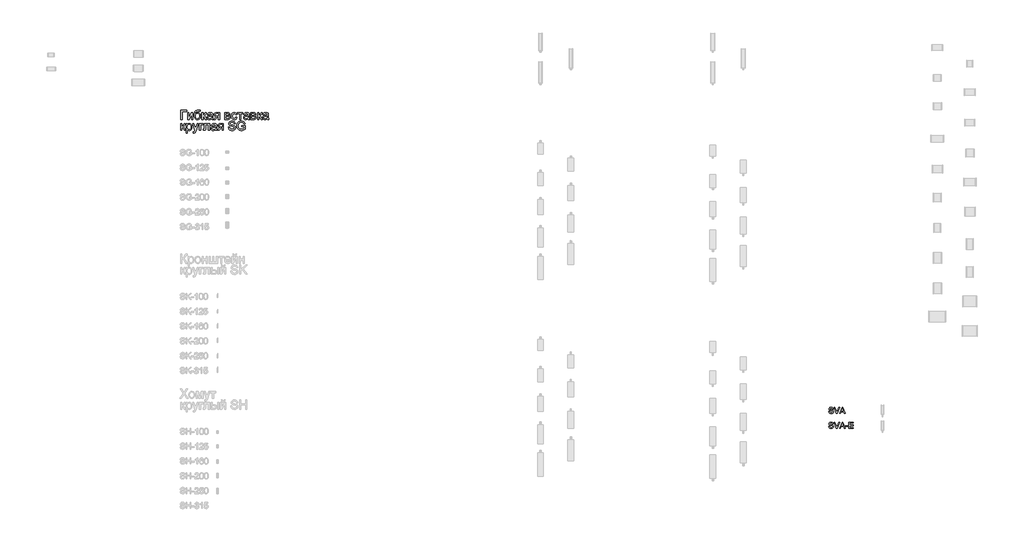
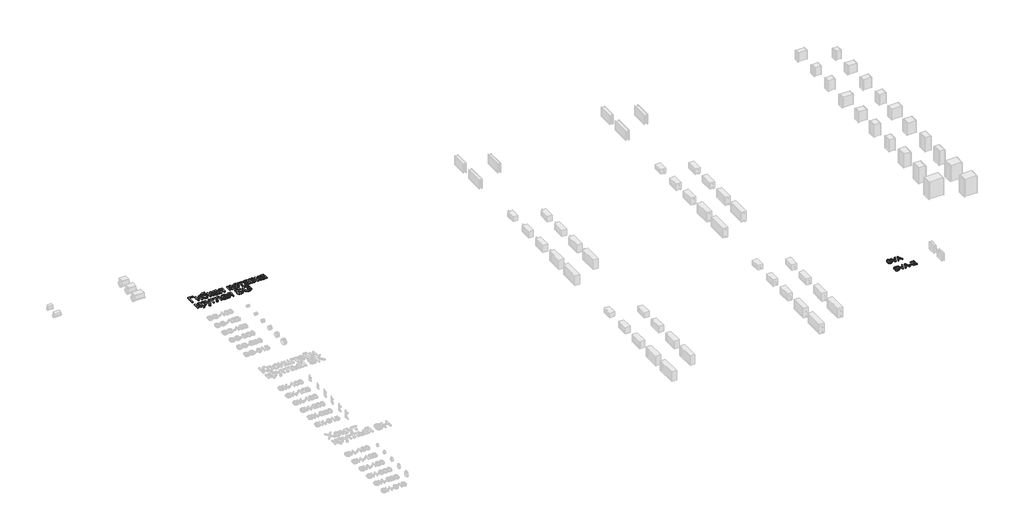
# One storey, part 8 of 31: 2 proxies.
"""IFC4 building model written with IfcOpenShell, lengths in millimetres."""

from ifc_helpers import new_model, si_unit, origin, origin_with_axes, place, context, project, spatial, polyline, outline, extrude, element, save

model = new_model("IFC4")

# Units and contexts
model_context = context("Model", 3, world=origin())
ifc_project = project(units=[si_unit("LENGTHUNIT", "METRE", prefix="MILLI")], contexts=[model_context])

# Site, building, storey
site = spatial("IfcSite", under=ifc_project)
building = spatial("IfcBuilding", under=site)
storey = spatial("IfcBuildingStorey", under=building, Name="Этаж 01", Elevation=0.0)

# Proxies
placement = place(None, origin())
element("IfcBuildingElementProxy", 1, Name="450 мм Arial", ObjectType="450 мм Arial", at=placement, inside=storey, context=model_context, shape_type="SweptSolid", body=[
    extrude(outline(polyline([(10426.1111664, -29173.162397), (10707.1462556, -29173.162397), (10707.1462556, -29229.3694149), (10482.3181842, -29229.3694149), (10482.3181842, -29622.8185399), (10426.1111664, -29622.8185399), (10426.1111664, -29173.162397)])), origin_with_axes(), (0.0, 0.0, 1.0), 50.0),
    extrude(outline(polyline([(10749.301519, -29292.60231), (10805.5085369, -29292.60231), (10805.5085369, -29544.436097), (10943.6109362, -29292.60231), (11016.2848538, -29292.60231), (11016.2848538, -29622.8185399), (10960.077836, -29622.8185399), (10960.077836, -29372.5216635), (10822.8536713, -29622.8185399), (10749.301519, -29622.8185399), (10749.301519, -29292.60231)])), origin_with_axes(), (0.0, 0.0, 1.0), 50.0),
    extrude(outline(polyline([(11332.4493292, -29166.1365198), (11381.6304698, -29166.1365198), (11376.3061723, -29192.8540647), (11367.1395981, -29209.9933628), (11354.4326404, -29220.1342286), (11338.4871925, -29225.8564763), (11269.6555515, -29229.3694149), (11212.5016869, -29232.6079052), (11176.9469058, -29242.323376), (11155.6771603, -29259.1745035), (11141.3784023, -29283.8199634), (11132.966561, -29316.4518698), (11129.3575655, -29357.2623364), (11151.9583854, -29325.8654475), (11178.0446991, -29303.4704638), (11207.6439515, -29290.0499405), (11240.7835872, -29285.5764328), (11271.4051596, -29288.4204036), (11299.2685262, -29296.952316), (11324.3736871, -29311.1721701), (11346.7206424, -29331.0799658), (11365.0675132, -29355.8386357), (11378.1724209, -29384.6111124), (11386.0353655, -29417.3973959), (11388.6563471, -29454.1974863), (11383.4555512, -29507.8521347), (11376.9545564, -29530.7068193), (11367.8531637, -29550.9130776), (11345.1151196, -29584.3820513), (11318.5073541, -29609.2607924), (11302.9461338, -29618.2661282), (11284.8050993, -29624.6985109), (11240.7835872, -29629.8444171), (11213.8293307, -29628.1874353), (11190.0518135, -29623.2164899), (11169.4510358, -29614.931581), (11152.0269975, -29603.3327085), (11124.0469903, -29573.1159474), (11103.4496432, -29535.4890815), (11096.0532607, -29510.9911375), (11090.7701304, -29478.8292239), (11086.5436261, -29391.5134879), (11089.2092055, -29332.3321363), (11097.2059437, -29283.6690169), (11110.5338407, -29245.5241297), (11129.1928965, -29217.8974747), (11153.3820861, -29198.3258782), (11183.3003846, -29184.3461665), (11218.947792, -29175.9583394), (11260.3243083, -29173.162397), (11322.8985274, -29171.8999347), (11332.4493292, -29166.1365198)]), holes=[polyline([(11332.4493292, -29452.441017), (11330.926141, -29429.2261189), (11326.3565763, -29408.2136687), (11318.7406352, -29389.4036664), (11308.0783176, -29372.7961118), (11294.6440719, -29359.2280725), (11278.7123463, -29349.5366159), (11260.283141, -29343.7217419), (11239.3564559, -29341.7834506), (11217.5172301, -29343.8315213), (11198.3264307, -29349.9757332), (11181.7840576, -29360.2160865), (11167.8901109, -29374.5525811), (11156.8915941, -29392.3128186), (11149.0355107, -29412.8244007), (11144.3218607, -29436.0873272), (11142.750644, -29462.1015982), (11144.4865297, -29487.5738338), (11149.6941867, -29509.8693299), (11158.3736151, -29528.9880867), (11170.5248149, -29544.930104), (11185.2215229, -29557.4895457), (11201.5374761, -29566.4605754), (11219.4726744, -29571.8431933), (11239.0271179, -29573.6373992), (11258.8491485, -29571.5618838), (11276.7088735, -29565.3353373), (11292.606293, -29554.9577598), (11306.5414069, -29540.4291514), (11317.8761229, -29522.4768001), (11325.9723487, -29501.8279939), (11330.8300841, -29478.4827329), (11332.4493292, -29452.441017)])]), origin_with_axes(), (0.0, 0.0, 1.0), 50.0),
    extrude(outline(polyline([(11458.9151194, -29292.60231), (11515.1221372, -29292.60231), (11515.1221372, -29433.1198546), (11537.9836831, -29430.59493), (11552.776448, -29423.0201561), (11565.8676333, -29403.2598764), (11583.6244403, -29364.1784343), (11597.9369206, -29332.2189263), (11609.2579142, -29313.4054934), (11619.8241749, -29303.1548482), (11631.8724566, -29296.8837039), (11672.9848163, -29292.60231), (11683.7431908, -29292.60231), (11683.7431908, -29349.1386658), (11668.593643, -29348.8093278), (11651.0289499, -29350.2913488), (11641.1488101, -29354.7374118), (11621.8276477, -29391.7330465), (11609.9577575, -29416.3922289), (11599.1582157, -29431.747613), (11586.0807528, -29441.9982581), (11567.3770992, -29451.3432237), (11585.1887957, -29459.2541968), (11602.8358233, -29473.2167555), (11620.3181819, -29493.2309), (11637.6358715, -29519.29663), (11697.7949453, -29622.8185399), (11633.9033742, -29622.8185399), (11574.951873, -29521.4922167), (11559.0338699, -29494.5276683), (11545.3114535, -29478.6233876), (11531.4518128, -29470.8427775), (11515.1221372, -29468.2492408), (11515.1221372, -29622.8185399), (11458.9151194, -29622.8185399), (11458.9151194, -29292.60231)])), origin_with_axes(), (0.0, 0.0, 1.0), 50.0),
    extrude(outline(polyline([(11943.7006484, -29580.6632765), (11916.8458793, -29603.6894913), (11889.1952102, -29618.7567046), (11860.1174097, -29627.072489), (11828.9812467, -29629.8444171), (11803.9549897, -29628.1771435), (11782.0094151, -29623.1753227), (11763.1445231, -29614.8389547), (11747.3603135, -29603.1680395), (11734.8969288, -29588.9035876), (11725.9945111, -29572.7866094), (11720.6530605, -29554.8171051), (11718.872577, -29534.9950745), (11721.5621706, -29511.6944113), (11729.6309515, -29490.5344451), (11742.0771832, -29472.4208554), (11757.8991294, -29458.2593216), (11776.4930037, -29447.5558367), (11797.2550198, -29439.8163939), (11845.8872638, -29431.3633853), (11903.356744, -29422.4712594), (11943.3713104, -29412.0422229), (11943.7006484, -29399.5273791), (11939.8309269, -29374.4428018), (11928.2217626, -29358.0307917), (11902.2589506, -29345.8452859), (11866.0866608, -29341.7834506), (11832.6039646, -29344.4867667), (11809.220967, -29352.5967148), (11793.2755191, -29367.595316), (11782.105472, -29390.9645912), (11725.8984542, -29383.938714), (11735.6550923, -29353.2005011), (11750.2145762, -29329.0490481), (11770.935425, -29310.5786756), (11799.1761581, -29296.8837039), (11833.7154804, -29288.4032505), (11873.3320967, -29285.5764328), (11911.3294679, -29288.0739126), (11941.4501721, -29295.5663519), (11964.1607713, -29306.8324559), (11979.9278278, -29320.6509292), (11990.3843092, -29337.7353377), (11997.1631829, -29358.799247), (11999.9076662, -29407.9803876), (11999.9076662, -29477.909822), (12002.7619288, -29575.5585376), (12013.9594207, -29622.8185399), (11957.7524028, -29622.8185399), (11948.7504976, -29603.2778188), (11943.7006484, -29580.6632765)]), holes=[polyline([(11943.7006484, -29468.2492408), (11905.9365583, -29477.6079288), (11853.0229204, -29485.4845959), (11804.6651247, -29494.5962804), (11792.0816688, -29500.8262575), (11782.764148, -29509.4164902), (11777.0007331, -29519.7083025), (11775.0795948, -29531.0430185), (11779.2649318, -29547.7569218), (11791.8209429, -29561.4518934), (11812.4731797, -29570.5910228), (11840.9471939, -29573.6373992), (11871.1365101, -29570.2754072), (11897.8128877, -29560.1894311), (11919.4394161, -29545.3280541), (11934.4791845, -29527.6398592), (11941.1482789, -29509.4164902), (11943.3713104, -29484.1672439), (11943.7006484, -29468.2492408)])]), origin_with_axes(), (0.0, 0.0, 1.0), 50.0),
    extrude(outline(polyline([(12330.1238961, -29292.60231), (12330.1238961, -29622.8185399), (12273.9168783, -29622.8185399), (12273.9168783, -29496.3527497), (12243.2884447, -29496.3527497), (12218.8625434, -29498.1366638), (12201.5722986, -29503.4884063), (12184.913285, -29519.0496265), (12162.3810772, -29551.4619742), (12117.5911099, -29622.8185399), (12052.6017455, -29622.8185399), (12109.028322, -29532.5799292), (12133.9482303, -29500.1950263), (12145.6671739, -29490.7540038), (12156.8921106, -29485.8139339), (12136.2535962, -29481.2512304), (12118.4693445, -29474.0401005), (12103.5393554, -29464.1805443), (12091.4636289, -29451.6725617), (12075.4907361, -29421.9223628), (12070.1664385, -29388.0005493), (12071.9846587, -29367.759985), (12077.4393193, -29349.5228935), (12086.5304202, -29333.2892748), (12099.2579614, -29319.0591289), (12115.4298293, -29307.4842706), (12134.8539098, -29299.2165147), (12157.530203, -29294.2558612), (12183.4587089, -29292.60231), (12330.1238961, -29292.60231)]), holes=[polyline([(12273.9168783, -29348.8093278), (12199.8158293, -29348.8093278), (12161.5440098, -29352.0615405), (12148.6140629, -29356.1268064), (12139.8214245, -29361.8181786), (12129.7354484, -29375.9385452), (12126.3734564, -29392.2819432), (12131.3272487, -29413.7026353), (12146.1886258, -29428.5640123), (12173.6471811, -29437.250302), (12216.3925084, -29440.1457318), (12273.9168783, -29440.1457318), (12273.9168783, -29348.8093278)])]), origin_with_axes(), (0.0, 0.0, 1.0), 50.0),
    extrude(outline(polyline([(12590.0813537, -29292.60231), (12713.9124399, -29292.60231), (12753.72117, -29294.482281), (12781.8109566, -29300.1221942), (12802.4769158, -29310.7707894), (12820.014164, -29327.6768065), (12831.9938336, -29349.7012849), (12835.9870568, -29375.7052641), (12833.5719115, -29396.6593941), (12826.3264756, -29414.7318165), (12814.2233043, -29430.0048661), (12797.2349527, -29442.5608771), (12818.038136, -29454.2386536), (12834.9990428, -29473.0246417), (12846.2788691, -29497.4368206), (12850.0388112, -29525.9931693), (12846.9169615, -29548.9988005), (12840.5154542, -29568.8345535), (12830.8342894, -29585.5004283), (12817.873467, -29598.9964249), (12801.6124035, -29609.4186002), (12782.0305152, -29616.8630111), (12759.1278021, -29621.3296577), (12732.9042643, -29622.8185399), (12590.0813537, -29622.8185399), (12590.0813537, -29292.60231)]), holes=[polyline([(12646.2883715, -29419.0681002), (12701.8367134, -29419.0681002), (12747.6695844, -29416.2138375), (12769.9547887, -29404.796787), (12777.3237264, -29395.3557645), (12779.7800389, -29384.1582727), (12775.4712002, -29367.3894797), (12762.5446838, -29356.6036604), (12739.189131, -29350.757911), (12703.5931827, -29348.8093278), (12646.2883715, -29348.8093278), (12646.2883715, -29419.0681002)]), polyline([(12646.2883715, -29566.611522), (12715.2297919, -29566.611522), (12752.8017681, -29564.072875), (12776.3768796, -29556.4569338), (12789.0289476, -29542.6110156), (12793.8317934, -29521.3824373), (12791.4303705, -29507.3169605), (12784.2261019, -29494.3218321), (12773.1658342, -29484.1535215), (12759.1964142, -29478.568498), (12709.7408253, -29475.275118), (12646.2883715, -29475.275118), (12646.2883715, -29566.611522)])]), origin_with_axes(), (0.0, 0.0, 1.0), 50.0),
    extrude(outline(polyline([(13131.0739005, -29503.3786269), (13187.2809183, -29510.4045042), (13181.1675818, -29536.9265046), (13171.6099187, -29560.3952674), (13158.6079291, -29580.8107925), (13142.161613, -29598.1730799), (13122.9639524, -29612.0292899), (13101.7079293, -29621.9265828), (13078.3935437, -29627.8649585), (13053.0207956, -29629.8444171), (13021.4969744, -29627.0827808), (12993.2322271, -29618.7978718), (12968.2265537, -29604.9896903), (12946.4799542, -29585.6582361), (12928.8775244, -29561.1671533), (12916.3043604, -29531.8800859), (12908.7604619, -29497.797034), (12906.2458291, -29458.9179976), (12910.5409454, -29408.8997896), (12923.4262945, -29365.5506759), (12933.1417654, -29346.7955632), (12945.1077125, -29330.5447915), (12959.324136, -29316.7983608), (12975.7910357, -29305.5562711), (13012.4984998, -29290.5713923), (13052.2523403, -29285.5764328), (13077.1894016, -29287.2917348), (13099.7456237, -29292.437641), (13119.9210065, -29301.0141513), (13137.7155501, -29313.0212657), (13152.8273612, -29328.1845359), (13164.9545468, -29346.2295135), (13174.0971067, -29367.1561987), (13180.2550411, -29390.9645912), (13124.0480233, -29397.9904685), (13113.8522678, -29373.4685102), (13097.975432, -29355.8900947), (13077.2957504, -29345.3101116), (13052.6914576, -29341.7834506), (13033.5932845, -29343.5193363), (13016.3682212, -29348.7269933), (13001.0162678, -29357.4064218), (12987.5374242, -29369.5576215), (12976.5629217, -29385.4619022), (12968.7239913, -29405.4005734), (12964.020633, -29429.3736349), (12962.4528469, -29457.3810869), (12963.986327, -29485.8105032), (12968.5867671, -29510.0614438), (12976.2541673, -29530.1339084), (12986.9885276, -29546.0278973), (13000.199784, -29558.1070544), (13015.2978728, -29566.7350238), (13032.2827937, -29571.9118054), (13051.154547, -29573.6373992), (13080.2597923, -29569.3285605), (13104.1230746, -29556.4020442), (13121.4819314, -29534.5285123), (13131.0739005, -29503.3786269)])), origin_with_axes(), (0.0, 0.0, 1.0), 50.0),
    extrude(outline(polyline([(13208.35855, -29292.60231), (13475.3418848, -29292.60231), (13475.3418848, -29348.8093278), (13369.9537264, -29348.8093278), (13369.9537264, -29622.8185399), (13313.7467085, -29622.8185399), (13313.7467085, -29348.8093278), (13208.35855, -29348.8093278), (13208.35855, -29292.60231)])), origin_with_axes(), (0.0, 0.0, 1.0), 50.0),
    extrude(outline(polyline([(13735.2993424, -29580.6632765), (13708.4445734, -29603.6894913), (13680.7939042, -29618.7567046), (13651.7161037, -29627.072489), (13620.5799407, -29629.8444171), (13595.5536837, -29628.1771435), (13573.6081092, -29623.1753227), (13554.7432171, -29614.8389547), (13538.9590076, -29603.1680395), (13526.4956228, -29588.9035876), (13517.5932051, -29572.7866094), (13512.2517545, -29554.8171051), (13510.471271, -29534.9950745), (13513.1608646, -29511.6944113), (13521.2296455, -29490.5344451), (13533.6758772, -29472.4208554), (13549.4978234, -29458.2593216), (13568.0916977, -29447.5558367), (13588.8537139, -29439.8163939), (13637.4859578, -29431.3633853), (13694.955438, -29422.4712594), (13734.9700044, -29412.0422229), (13735.2993424, -29399.5273791), (13731.429621, -29374.4428018), (13719.8204566, -29358.0307917), (13693.8576447, -29345.8452859), (13657.6853549, -29341.7834506), (13624.2026587, -29344.4867667), (13600.819661, -29352.5967148), (13584.8742131, -29367.595316), (13573.7041661, -29390.9645912), (13517.4971482, -29383.938714), (13527.2537863, -29353.2005011), (13541.8132702, -29329.0490481), (13562.5341191, -29310.5786756), (13590.7748522, -29296.8837039), (13625.3141744, -29288.4032505), (13664.9307908, -29285.5764328), (13702.928162, -29288.0739126), (13733.0488661, -29295.5663519), (13755.7594654, -29306.8324559), (13771.5265219, -29320.6509292), (13781.9830032, -29337.7353377), (13788.761877, -29358.799247), (13791.5063603, -29407.9803876), (13791.5063603, -29477.909822), (13794.3606229, -29575.5585376), (13805.5581147, -29622.8185399), (13749.3510969, -29622.8185399), (13740.3491917, -29603.2778188), (13735.2993424, -29580.6632765)]), holes=[polyline([(13735.2993424, -29468.2492408), (13697.5352523, -29477.6079288), (13644.6216144, -29485.4845959), (13596.2638188, -29494.5962804), (13583.6803629, -29500.8262575), (13574.3628421, -29509.4164902), (13568.5994272, -29519.7083025), (13566.6782889, -29531.0430185), (13570.8636259, -29547.7569218), (13583.4196369, -29561.4518934), (13604.0718737, -29570.5910228), (13632.5458879, -29573.6373992), (13662.7352041, -29570.2754072), (13689.4115817, -29560.1894311), (13711.0381101, -29545.3280541), (13726.0778785, -29527.6398592), (13732.7469729, -29509.4164902), (13734.9700044, -29484.1672439), (13735.2993424, -29468.2492408)])]), origin_with_axes(), (0.0, 0.0, 1.0), 50.0),
    extrude(outline(polyline([(13868.7910098, -29292.60231), (13992.622096, -29292.60231), (14032.4308262, -29294.482281), (14060.5206127, -29300.1221942), (14081.1865719, -29310.7707894), (14098.7238201, -29327.6768065), (14110.7034897, -29349.7012849), (14114.6967129, -29375.7052641), (14112.2815676, -29396.6593941), (14105.0361317, -29414.7318165), (14092.9329604, -29430.0048661), (14075.9446088, -29442.5608771), (14096.7477922, -29454.2386536), (14113.7086989, -29473.0246417), (14124.9885253, -29497.4368206), (14128.7484674, -29525.9931693), (14125.6266176, -29548.9988005), (14119.2251103, -29568.8345535), (14109.5439455, -29585.5004283), (14096.5831232, -29598.9964249), (14080.3220597, -29609.4186002), (14060.7401714, -29616.8630111), (14037.8374583, -29621.3296577), (14011.6139204, -29622.8185399), (13868.7910098, -29622.8185399), (13868.7910098, -29292.60231)]), holes=[polyline([(13924.9980277, -29419.0681002), (13980.5463695, -29419.0681002), (14026.3792405, -29416.2138375), (14048.6644449, -29404.796787), (14056.0333825, -29395.3557645), (14058.4896951, -29384.1582727), (14054.1808563, -29367.3894797), (14041.25434, -29356.6036604), (14017.8987871, -29350.757911), (13982.3028388, -29348.8093278), (13924.9980277, -29348.8093278), (13924.9980277, -29419.0681002)]), polyline([(13924.9980277, -29566.611522), (13993.939448, -29566.611522), (14031.5114243, -29564.072875), (14055.0865358, -29556.4569338), (14067.7386038, -29542.6110156), (14072.5414495, -29521.3824373), (14070.1400266, -29507.3169605), (14062.935758, -29494.3218321), (14051.8754903, -29484.1535215), (14037.9060704, -29478.568498), (13988.4504814, -29475.275118), (13924.9980277, -29475.275118), (13924.9980277, -29566.611522)])]), origin_with_axes(), (0.0, 0.0, 1.0), 50.0),
    extrude(outline(polyline([(14199.0072397, -29292.60231), (14255.2142575, -29292.60231), (14255.2142575, -29433.1198546), (14278.0758034, -29430.59493), (14292.8685683, -29423.0201561), (14305.9597536, -29403.2598764), (14323.7165605, -29364.1784343), (14338.0290409, -29332.2189263), (14349.3500345, -29313.4054934), (14359.9162952, -29303.1548482), (14371.9645768, -29296.8837039), (14413.0769366, -29292.60231), (14423.8353111, -29292.60231), (14423.8353111, -29349.1386658), (14408.6857633, -29348.8093278), (14391.1210702, -29350.2913488), (14381.2409304, -29354.7374118), (14361.919768, -29391.7330465), (14350.0498778, -29416.3922289), (14339.250336, -29431.747613), (14326.1728731, -29441.9982581), (14307.4692195, -29451.3432237), (14325.280916, -29459.2541968), (14342.9279436, -29473.2167555), (14360.4103022, -29493.2309), (14377.7279918, -29519.29663), (14437.8870656, -29622.8185399), (14373.9954945, -29622.8185399), (14315.0439933, -29521.4922167), (14299.1259902, -29494.5276683), (14285.4035738, -29478.6233876), (14271.5439331, -29470.8427775), (14255.2142575, -29468.2492408), (14255.2142575, -29622.8185399), (14199.0072397, -29622.8185399), (14199.0072397, -29292.60231)])), origin_with_axes(), (0.0, 0.0, 1.0), 50.0),
    extrude(outline(polyline([(14683.7927687, -29580.6632765), (14656.9379996, -29603.6894913), (14629.2873305, -29618.7567046), (14600.20953, -29627.072489), (14569.073367, -29629.8444171), (14544.04711, -29628.1771435), (14522.1015354, -29623.1753227), (14503.2366434, -29614.8389547), (14487.4524338, -29603.1680395), (14474.9890491, -29588.9035876), (14466.0866314, -29572.7866094), (14460.7451808, -29554.8171051), (14458.9646973, -29534.9950745), (14461.6542909, -29511.6944113), (14469.7230718, -29490.5344451), (14482.1693035, -29472.4208554), (14497.9912497, -29458.2593216), (14516.585124, -29447.5558367), (14537.3471401, -29439.8163939), (14585.9793841, -29431.3633853), (14643.4488642, -29422.4712594), (14683.4634307, -29412.0422229), (14683.7927687, -29399.5273791), (14679.9230472, -29374.4428018), (14668.3138829, -29358.0307917), (14642.3510709, -29345.8452859), (14606.1787811, -29341.7834506), (14572.6960849, -29344.4867667), (14549.3130873, -29352.5967148), (14533.3676393, -29367.595316), (14522.1975923, -29390.9645912), (14465.9905745, -29383.938714), (14475.7472126, -29353.2005011), (14490.3066965, -29329.0490481), (14511.0275453, -29310.5786756), (14539.2682784, -29296.8837039), (14573.8076007, -29288.4032505), (14613.424217, -29285.5764328), (14651.4215882, -29288.0739126), (14681.5422924, -29295.5663519), (14704.2528916, -29306.8324559), (14720.0199481, -29320.6509292), (14730.4764295, -29337.7353377), (14737.2553032, -29358.799247), (14739.9997865, -29407.9803876), (14739.9997865, -29477.909822), (14742.8540491, -29575.5585376), (14754.051541, -29622.8185399), (14697.8445231, -29622.8185399), (14688.8426179, -29603.2778188), (14683.7927687, -29580.6632765)]), holes=[polyline([(14683.7927687, -29468.2492408), (14646.0286785, -29477.6079288), (14593.1150406, -29485.4845959), (14544.757245, -29494.5962804), (14532.1737891, -29500.8262575), (14522.8562683, -29509.4164902), (14517.0928534, -29519.7083025), (14515.1717151, -29531.0430185), (14519.3570521, -29547.7569218), (14531.9130632, -29561.4518934), (14552.5653, -29570.5910228), (14581.0393142, -29573.6373992), (14611.2286304, -29570.2754072), (14637.905008, -29560.1894311), (14659.5315363, -29545.3280541), (14674.5713048, -29527.6398592), (14681.2403992, -29509.4164902), (14683.4634307, -29484.1672439), (14683.7927687, -29468.2492408)])]), origin_with_axes(), (0.0, 0.0, 1.0), 50.0),
    extrude(outline(polyline([(10412.0594119, -29833.0343932), (10468.2664298, -29833.0343932), (10468.2664298, -29973.5519378), (10491.1279756, -29971.0270132), (10505.9207405, -29963.4522393), (10519.0119258, -29943.6919596), (10536.7687328, -29904.6105175), (10551.0812131, -29872.6510095), (10562.4022067, -29853.8375765), (10572.9684674, -29843.5869314), (10585.0167491, -29837.3157871), (10626.1291088, -29833.0343932), (10636.8874833, -29833.0343932), (10636.8874833, -29889.570749), (10621.7379355, -29889.241411), (10604.1732424, -29890.723432), (10594.2931026, -29895.1694949), (10574.9719402, -29932.1651297), (10563.10205, -29956.8243121), (10552.3025082, -29972.1796961), (10539.2250453, -29982.4303412), (10520.5213917, -29991.7753069), (10538.3330882, -29999.68628), (10555.9801158, -30013.6488387), (10573.4624744, -30033.6629831), (10590.780164, -30059.7287132), (10650.9392378, -30163.250623), (10587.0476667, -30163.250623), (10528.0961656, -30061.9242998), (10512.1781624, -30034.9597515), (10498.455746, -30019.0554708), (10484.5961053, -30011.2748607), (10468.2664298, -30008.681324), (10468.2664298, -30163.250623), (10412.0594119, -30163.250623), (10412.0594119, -29833.0343932)])), origin_with_axes(), (0.0, 0.0, 1.0), 50.0),
    extrude(outline(polyline([(10686.0686239, -30289.7164132), (10686.0686239, -29833.0343932), (10742.2756418, -29833.0343932), (10742.2756418, -29888.1436177), (10760.6087902, -29860.9595107), (10781.1375252, -29841.5422914), (10805.0694195, -29829.8919598), (10833.6120458, -29826.0085159), (10871.6231394, -29831.4425929), (10904.8588321, -29847.7448236), (10931.9194374, -29873.9271942), (10951.4052687, -29909.0016907), (10963.1791021, -29950.4159436), (10967.1037132, -29995.6175835), (10962.6713727, -30043.6872084), (10949.3743511, -30086.6795392), (10927.6380434, -30122.4127116), (10897.8878445, -30148.7048616), (10863.2387429, -30164.8835906), (10826.8057272, -30170.2765003), (10800.966417, -30166.6675047), (10777.8990349, -30155.8405182), (10758.1524776, -30139.4971201), (10742.2756418, -30119.3388903), (10742.2756418, -30289.7164132), (10686.0686239, -30289.7164132)]), holes=[polyline([(10742.2756418, -30000.7772121), (10743.7953994, -30027.8652622), (10748.3546723, -30051.1659253), (10755.9534604, -30070.6792016), (10766.5917638, -30086.4050908), (10779.3982089, -30098.5082622), (10793.5014225, -30107.1533845), (10808.9014043, -30112.3404579), (10825.5981546, -30114.0694824), (10842.5350471, -30112.2787071), (10858.2163385, -30106.906381), (10872.6420288, -30097.9525043), (10885.812118, -30085.4170768), (10896.7866206, -30069.1217073), (10904.625551, -30048.8880042), (10909.3289093, -30024.7159676), (10910.8966953, -29996.6055975), (10909.3666459, -29969.7508284), (10904.7764976, -29946.4913325), (10897.1262504, -29926.8271097), (10886.4159044, -29910.75816), (10873.5785838, -29898.2707611), (10859.5474129, -29889.3511903), (10844.3223918, -29883.9994479), (10827.9035205, -29882.2155338), (10811.5361083, -29884.1126579), (10796.1361264, -29889.8040301), (10781.7035749, -29899.2896505), (10768.2384537, -29912.569519), (10756.8797235, -29929.4652443), (10748.7663448, -29949.7984349), (10743.8983175, -29973.5690908), (10742.2756418, -30000.7772121)])]), origin_with_axes(), (0.0, 0.0, 1.0), 50.0),
    extrude(outline(polyline([(11030.3366083, -30289.7164132), (11023.310731, -30235.5952027), (11051.8533573, -30240.5352726), (11066.8656809, -30238.9846395), (11078.5297349, -30234.3327403), (11094.8868553, -30217.0424956), (11110.2559618, -30175.6556875), (11114.6471351, -30162.0430504), (10995.2072221, -29833.0343932), (11054.4880613, -29833.0343932), (11117.8307357, -30016.3658772), (11139.8963814, -30089.6984708), (11161.962027, -30024.928665), (11227.0611708, -29833.0343932), (11285.9028926, -29833.0343932), (11170.9639322, -30171.1547349), (11141.103954, -30244.4873285), (11125.8171821, -30267.897771), (11108.4994925, -30284.1176673), (11088.3824299, -30293.5861347), (11064.6975391, -30296.7422904), (11030.3366083, -30289.7164132)])), origin_with_axes(), (0.0, 0.0, 1.0), 50.0),
    extrude(outline(polyline([(11332.4493292, -29833.0343932), (11515.1221372, -29833.0343932), (11515.1221372, -29889.241411), (11388.6563471, -29889.241411), (11388.6563471, -30163.250623), (11332.4493292, -30163.250623), (11332.4493292, -29833.0343932)])), origin_with_axes(), (0.0, 0.0, 1.0), 50.0),
    extrude(outline(polyline([(11585.3809096, -29833.0343932), (11838.3124899, -29833.0343932), (11838.3124899, -30162.9212851), (11782.105472, -30162.9212851), (11782.105472, -29889.241411), (11641.5879274, -29889.241411), (11641.5879274, -30046.7747521), (11637.8005405, -30119.4486697), (11630.7060512, -30135.901847), (11616.9973571, -30150.1319929), (11596.1941737, -30159.9709655), (11567.8162165, -30163.250623), (11522.1480145, -30160.3963604), (11522.1480145, -30107.0436052), (11547.2874814, -30107.0436052), (11572.7013967, -30103.5855562), (11579.0548756, -30099.1120485), (11582.8559849, -30092.6076231), (11585.3809096, -30043.5911514), (11585.3809096, -29833.0343932)])), origin_with_axes(), (0.0, 0.0, 1.0), 50.0),
    extrude(outline(polyline([(12133.3993336, -30121.0953597), (12106.5445646, -30144.1215745), (12078.8938954, -30159.1887878), (12049.8160949, -30167.5045722), (12018.679932, -30170.2765003), (11993.6536749, -30168.6092267), (11971.7081004, -30163.6074059), (11952.8432083, -30155.2710379), (11937.0589988, -30143.6001227), (11924.595614, -30129.3356707), (11915.6931964, -30113.2186926), (11910.3517457, -30095.2491882), (11908.5712622, -30075.4271577), (11911.2608558, -30052.1264945), (11919.3296367, -30030.9665283), (11931.7758685, -30012.8529386), (11947.5978146, -29998.6914048), (11966.191689, -29987.9879199), (11986.9537051, -29980.248477), (12035.585949, -29971.7954685), (12093.0554292, -29962.9033426), (12133.0699956, -29952.4743061), (12133.3993336, -29939.9594623), (12129.5296122, -29914.874885), (12117.9204478, -29898.4628749), (12091.9576359, -29886.2773691), (12055.7853461, -29882.2155338), (12022.3026499, -29884.9188498), (11998.9196522, -29893.028798), (11982.9742043, -29908.0273992), (11971.8041573, -29931.3966744), (11915.5971394, -29924.3707972), (11925.3537776, -29893.6325843), (11939.9132614, -29869.4811313), (11960.6341103, -29851.0107587), (11988.8748434, -29837.3157871), (12023.4141656, -29828.8353337), (12063.030782, -29826.0085159), (12101.0281532, -29828.5059957), (12131.1488573, -29835.9984351), (12153.8594566, -29847.264539), (12169.6265131, -29861.0830124), (12180.0829944, -29878.1674209), (12186.8618682, -29899.2313302), (12189.6063515, -29948.4124708), (12189.6063515, -30018.3419051), (12192.4606141, -30115.9906207), (12203.6581059, -30163.250623), (12147.4510881, -30163.250623), (12138.4491829, -30143.709902), (12133.3993336, -30121.0953597)]), holes=[polyline([(12133.3993336, -30008.681324), (12095.6352435, -30018.040012), (12042.7216056, -30025.916679), (11994.36381, -30035.0283636), (11981.7803541, -30041.2583406), (11972.4628333, -30049.8485734), (11966.6994184, -30060.1403857), (11964.7782801, -30071.4751017), (11968.9636171, -30088.189005), (11981.5196282, -30101.8839766), (12002.1718649, -30111.023106), (12030.6458791, -30114.0694824), (12060.8351953, -30110.7074904), (12087.511573, -30100.6215143), (12109.1381013, -30085.7601373), (12124.1778698, -30068.0719424), (12130.8469642, -30049.8485734), (12133.0699956, -30024.5993271), (12133.3993336, -30008.681324)])]), origin_with_axes(), (0.0, 0.0, 1.0), 50.0),
    extrude(outline(polyline([(12519.8225814, -29833.0343932), (12519.8225814, -30163.250623), (12463.6155635, -30163.250623), (12463.6155635, -30036.7848329), (12432.9871299, -30036.7848329), (12408.5612286, -30038.568747), (12391.2709839, -30043.9204894), (12374.6119703, -30059.4817097), (12352.0797625, -30091.8940574), (12307.2897951, -30163.250623), (12242.3004307, -30163.250623), (12298.7270072, -30073.0120124), (12323.6469155, -30040.6271095), (12335.3658592, -30031.186087), (12346.5907959, -30026.246017), (12325.9522815, -30021.6833136), (12308.1680298, -30014.4721837), (12293.2380406, -30004.6126275), (12281.1623141, -29992.1046449), (12265.1894214, -29962.354446), (12259.8651238, -29928.4326324), (12261.683344, -29908.1920682), (12267.1380045, -29889.9549767), (12276.2291054, -29873.721358), (12288.9566467, -29859.4912121), (12305.1285145, -29847.9163538), (12324.552595, -29839.6485979), (12347.2288882, -29834.6879443), (12373.1573941, -29833.0343932), (12519.8225814, -29833.0343932)]), holes=[polyline([(12463.6155635, -29889.241411), (12389.5145146, -29889.241411), (12351.242695, -29892.4936237), (12338.3127481, -29896.5588896), (12329.5201098, -29902.2502618), (12319.4341337, -29916.3706284), (12316.0721416, -29932.7140264), (12321.025934, -29954.1347185), (12335.887311, -29968.9960955), (12363.3458664, -29977.6823852), (12406.0911937, -29980.577815), (12463.6155635, -29980.577815), (12463.6155635, -29889.241411)])]), origin_with_axes(), (0.0, 0.0, 1.0), 50.0),
    extrude(outline(polyline([(12765.7282845, -30008.681324), (12821.9353023, -30008.681324), (12828.3848381, -30039.8723766), (12840.048892, -30064.9432315), (12858.2448163, -30084.8407353), (12884.2899627, -30100.511735), (12916.1259689, -30110.6800456), (12951.6944724, -30114.0694824), (12983.0090268, -30111.5033905), (13010.4264149, -30103.8051149), (13032.6430072, -30091.6196091), (13048.355174, -30075.5918266), (13057.7001396, -30057.1900662), (13060.8151282, -30037.8826262), (13058.4823174, -30019.0691932), (13051.483885, -30002.8081297), (13037.2674615, -29988.9347667), (13013.2806775, -29977.2844351), (12931.4401857, -29955.8225757), (12877.7169253, -29941.6198747), (12843.342272, -29928.1032945), (12815.3622648, -29909.1938046), (12795.533373, -29886.2773691), (12783.7183724, -29859.8479949), (12779.7800389, -29830.3996892), (12784.6514968, -29797.4796121), (12799.2658703, -29766.7825665), (12823.2389319, -29740.7648648), (12856.1864538, -29721.8828198), (12895.7344581, -29710.3971572), (12939.5089666, -29706.568603), (12986.9336379, -29710.5755486), (13028.4302253, -29722.5963854), (13062.5167078, -29742.38411), (13087.7110645, -29769.6917187), (13103.6565124, -29802.8176321), (13109.9962688, -29840.0602704), (13053.789251, -29840.0602704), (13050.0293088, -29822.1250721), (13043.4699938, -29806.5226845), (13034.1113057, -29793.2531078), (13021.9532447, -29782.3163419), (13006.7693909, -29773.7672764), (12988.3333244, -29767.6608011), (12941.7045532, -29762.7756208), (12893.9779888, -29767.6059114), (12875.7340361, -29773.6437747), (12861.2363031, -29782.0967832), (12842.2993683, -29803.4214184), (12837.5651347, -29815.5863406), (12835.9870568, -29828.7529992), (12840.4605645, -29850.3520827), (12853.8810878, -29867.724662), (12885.6073147, -29883.2584374), (12945.6566092, -29899.1215509), (13007.627042, -29914.1887642), (13045.1166837, -29927.3348391), (13077.1585262, -29947.72635), (13099.5123426, -29972.8932618), (13112.6446952, -30002.5611262), (13117.022146, -30036.4554949), (13111.9860192, -30071.1045965), (13096.8776387, -30103.6953356), (13072.3145132, -30131.7439548), (13038.9141515, -30152.7666969), (12998.7486385, -30165.8990494), (12953.8900591, -30170.2765003), (12898.8220018, -30165.555989), (12853.4968602, -30151.3944552), (12834.3575198, -30140.7595825), (12817.3931825, -30127.7370092), (12802.6038481, -30112.3267355), (12789.9895168, -30094.5287614), (12772.3973789, -30054.0750776), (12765.7282845, -30008.681324)])), origin_with_axes(), (0.0, 0.0, 1.0), 50.0),
    extrude(outline(polyline([(13412.1089898, -29987.6036923), (13412.1089898, -29931.3966744), (13594.7817978, -29931.3966744), (13594.7817978, -30099.4688313), (13550.3897805, -30130.3442684), (13504.5980768, -30152.4922485), (13457.5164659, -30165.8304373), (13409.2547271, -30170.2765003), (13376.9693118, -30168.5097392), (13346.2002235, -30163.2094558), (13316.9474622, -30154.3756502), (13289.2110279, -30142.0083224), (13263.8863083, -30126.2927249), (13241.8686911, -30107.4141104), (13223.1581762, -30085.372479), (13207.7547637, -30060.1678305), (13195.7236351, -30032.6063571), (13187.1299718, -30003.4942505), (13181.9737738, -29972.8315109), (13180.2550411, -29940.6181383), (13181.9669126, -29908.401335), (13187.1025269, -29877.2891863), (13195.6618842, -29847.2816921), (13207.6449844, -29818.3788524), (13222.83913, -29791.8499907), (13241.0316237, -29768.9644307), (13262.2224653, -29749.7221722), (13286.4116549, -29734.1232153), (13313.0743101, -29722.0680724), (13341.6855484, -29713.4572561), (13372.2453699, -29708.2907663), (13404.7537745, -29706.568603), (13451.0532077, -29710.5618262), (13492.6870193, -29722.5414958), (13527.7477933, -29741.6430995), (13554.328114, -29767.0021251), (13573.9923368, -29799.8398677), (13588.3048172, -29841.3776224), (13536.4889726, -29855.9782735), (13524.9209755, -29826.3515763), (13510.8554987, -29803.9977599), (13492.2479019, -29787.1466325), (13467.0535453, -29774.0280024), (13437.0151756, -29765.5887162), (13403.8755399, -29762.7756208), (13365.0822685, -29765.8082749), (13331.9151879, -29774.906237), (13304.4977998, -29788.9305466), (13282.953606, -29806.7422432), (13266.4180941, -29827.4219248), (13254.026752, -29850.0501896), (13240.8532322, -29892.4799013), (13236.462059, -29938.3127723), (13241.7451893, -29992.0634776), (13248.3491022, -30015.3675714), (13257.5945803, -30036.2908259), (13269.3615525, -30054.7543372), (13283.5299475, -30070.6792016), (13300.0997653, -30084.0654188), (13319.0710061, -30094.912989), (13360.6636504, -30109.2803591), (13404.7537745, -30114.0694824), (13443.6842701, -30110.4604869), (13481.6541964, -30099.6335003), (13514.6291632, -30084.7172336), (13538.5747799, -30068.8403977), (13538.5747799, -29987.6036923), (13412.1089898, -29987.6036923)])), origin_with_axes(), (0.0, 0.0, 1.0), 50.0),
])
element("IfcBuildingElementProxy", 2, Name="300 мм Arial", ObjectType="300 мм Arial", at=placement, inside=storey, context=model_context, shape_type="SweptSolid", body=[
    extrude(outline(polyline([(42364.5550299, -44035.264306), (42402.2261462, -44035.264306), (42406.5487596, -44056.1692004), (42414.366252, -44072.9722105), (42426.5615402, -44086.3079328), (42444.0175408, -44096.8109638), (42465.3546966, -44103.6259778), (42489.1934499, -44105.8976491), (42510.1811177, -44104.1778008), (42528.5568233, -44099.0182558), (42543.4468471, -44090.8512755), (42553.9774692, -44080.1091212), (42560.2406602, -44067.7758773), (42562.3283905, -44054.8356282), (42560.764892, -44042.2264728), (42556.0743966, -44031.3279687), (42546.5462529, -44022.0297512), (42530.4698097, -44014.2214559), (42475.6186042, -43999.8372699), (42439.612154, -43990.3183232), (42416.573544, -43981.2592291), (42397.8207593, -43968.5856944), (42384.5310222, -43953.2266211), (42376.6123623, -43935.513103), (42373.972809, -43915.776234), (42377.2377617, -43893.7125113), (42387.0326198, -43873.1387107), (42403.0998659, -43855.7011042), (42425.1819827, -43843.0459635), (42451.6878804, -43835.3480328), (42481.0264696, -43832.7820559), (42512.8114739, -43835.4675944), (42540.6233528, -43843.5242101), (42563.4688247, -43856.7863561), (42580.3546083, -43875.0884853), (42591.0415802, -43897.2901637), (42595.2906173, -43922.2509571), (42557.619501, -43922.2509571), (42550.7033194, -43899.7733672), (42536.2823452, -43883.5497712), (42513.749573, -43873.7273219), (42482.4979975, -43870.4531722), (42450.5106581, -43873.6905337), (42428.566497, -43883.4026184), (42415.8745682, -43897.6948339), (42411.6439253, -43914.672588), (42414.6421635, -43929.1487445), (42423.6368783, -43940.7922096), (42444.9004576, -43951.2032701), (42485.1467479, -43961.8350598), (42526.6806252, -43971.9334205), (42551.8069654, -43980.7441943), (42573.2820769, -43994.4110104), (42588.2640712, -44011.2783999), (42597.0656479, -44031.1624218), (42599.9995068, -44053.879135), (42596.6241895, -44077.1016859), (42586.4982376, -44098.9446794), (42570.0355183, -44117.7434493), (42547.6498989, -44131.8333297), (42520.7301339, -44140.6349065), (42490.6649778, -44143.5687654), (42453.7572167, -44140.4049802), (42423.3793609, -44130.9136248), (42399.1819227, -44115.0579108), (42380.8154141, -44092.8010501), (42369.0247961, -44065.688147), (42364.5550299, -44035.264306)])), origin_with_axes(), (0.0, 0.0, 1.0), 50.0),
    extrude(outline(polyline([(42745.5336241, -44138.8598759), (42625.6040937, -43837.4909454), (42665.9239603, -43837.4909454), (42746.1958117, -44054.614899), (42762.4561959, -44103.5432043), (42778.4958509, -44054.614899), (42858.9884314, -43837.4909454), (42899.3082981, -43837.4909454), (42784.4555392, -44138.8598759), (42745.5336241, -44138.8598759)])), origin_with_axes(), (0.0, 0.0, 1.0), 50.0),
    extrude(outline(polyline([(42899.2347217, -44138.8598759), (43019.5321341, -43837.4909454), (43051.6114441, -43837.4909454), (43171.9088565, -44138.8598759), (43132.1040246, -44138.8598759), (43097.5966935, -44044.6820851), (42973.4733083, -44044.6820851), (42939.0395536, -44138.8598759), (42899.2347217, -44138.8598759)]), holes=[polyline([(42987.3056713, -44007.0109688), (43083.8379069, -44007.0109688), (43056.6882156, -43932.919535), (43035.5717891, -43875.1620617), (43016.8098073, -43926.4448118), (42987.3056713, -44007.0109688)])]), origin_with_axes(), (0.0, 0.0, 1.0), 50.0),
    extrude(outline(polyline([(42364.5550299, -44767.1132131), (42402.2261462, -44767.1132131), (42406.5487596, -44788.0181075), (42414.366252, -44804.8211176), (42426.5615402, -44818.1568399), (42444.0175408, -44828.6598709), (42465.3546966, -44835.4748848), (42489.1934499, -44837.7465562), (42510.1811177, -44836.0267078), (42528.5568233, -44830.8671628), (42543.4468471, -44822.7001826), (42553.9774692, -44811.9580283), (42560.2406602, -44799.6247844), (42562.3283905, -44786.6845352), (42560.764892, -44774.0753798), (42556.0743966, -44763.1768757), (42546.5462529, -44753.8786583), (42530.4698097, -44746.070363), (42475.6186042, -44731.6861769), (42439.612154, -44722.1672303), (42416.573544, -44713.1081362), (42397.8207593, -44700.4346015), (42384.5310222, -44685.0755282), (42376.6123623, -44667.3620101), (42373.972809, -44647.625141), (42377.2377617, -44625.5614184), (42387.0326198, -44604.9876178), (42403.0998659, -44587.5500112), (42425.1819827, -44574.8948706), (42451.6878804, -44567.1969399), (42481.0264696, -44564.6309629), (42512.8114739, -44567.3165015), (42540.6233528, -44575.3731172), (42563.4688247, -44588.6352631), (42580.3546083, -44606.9373924), (42591.0415802, -44629.1390708), (42595.2906173, -44654.0998642), (42557.619501, -44654.0998642), (42550.7033194, -44631.6222743), (42536.2823452, -44615.3986783), (42513.749573, -44605.576229), (42482.4979975, -44602.3020792), (42450.5106581, -44605.5394408), (42428.566497, -44615.2515255), (42415.8745682, -44629.543741), (42411.6439253, -44646.5214951), (42414.6421635, -44660.9976516), (42423.6368783, -44672.6411167), (42444.9004576, -44683.0521772), (42485.1467479, -44693.6839668), (42526.6806252, -44703.7823276), (42551.8069654, -44712.5931014), (42573.2820769, -44726.2599175), (42588.2640712, -44743.127307), (42597.0656479, -44763.0113288), (42599.9995068, -44785.728042), (42596.6241895, -44808.950593), (42586.4982376, -44830.7935864), (42570.0355183, -44849.5923564), (42547.6498989, -44863.6822368), (42520.7301339, -44872.4838136), (42490.6649778, -44875.4176725), (42453.7572167, -44872.2538873), (42423.3793609, -44862.7625318), (42399.1819227, -44846.9068178), (42380.8154141, -44824.6499571), (42369.0247961, -44797.5370541), (42364.5550299, -44767.1132131)])), origin_with_axes(), (0.0, 0.0, 1.0), 50.0),
    extrude(outline(polyline([(42745.5336241, -44870.7087829), (42625.6040937, -44569.3398525), (42665.9239603, -44569.3398525), (42746.1958117, -44786.463806), (42762.4561959, -44835.3921114), (42778.4958509, -44786.463806), (42858.9884314, -44569.3398525), (42899.3082981, -44569.3398525), (42784.4555392, -44870.7087829), (42745.5336241, -44870.7087829)])), origin_with_axes(), (0.0, 0.0, 1.0), 50.0),
    extrude(outline(polyline([(42899.2347217, -44870.7087829), (43019.5321341, -44569.3398525), (43051.6114441, -44569.3398525), (43171.9088565, -44870.7087829), (43132.1040246, -44870.7087829), (43097.5966935, -44776.5309922), (42973.4733083, -44776.5309922), (42939.0395536, -44870.7087829), (42899.2347217, -44870.7087829)]), holes=[polyline([(42987.3056713, -44738.8598759), (43083.8379069, -44738.8598759), (43056.6882156, -44664.768442), (43035.5717891, -44607.0109688), (43016.8098073, -44658.2937189), (42987.3056713, -44738.8598759)])]), origin_with_axes(), (0.0, 0.0, 1.0), 50.0),
    extrude(outline(polyline([(43188.6106991, -44781.2398817), (43188.6106991, -44743.5687654), (43306.3329375, -44743.5687654), (43306.3329375, -44781.2398817), (43188.6106991, -44781.2398817)])), origin_with_axes(), (0.0, 0.0, 1.0), 50.0),
    extrude(outline(polyline([(43353.4218329, -44870.7087829), (43353.4218329, -44569.3398525), (43570.0307517, -44569.3398525), (43570.0307517, -44607.0109688), (43391.0929492, -44607.0109688), (43391.0929492, -44696.47987), (43560.6129726, -44696.47987), (43560.6129726, -44734.1509863), (43391.0929492, -44734.1509863), (43391.0929492, -44833.0376666), (43574.7396412, -44833.0376666), (43574.7396412, -44870.7087829), (43353.4218329, -44870.7087829)])), origin_with_axes(), (0.0, 0.0, 1.0), 50.0),
])

save(model, "model.ifc")
